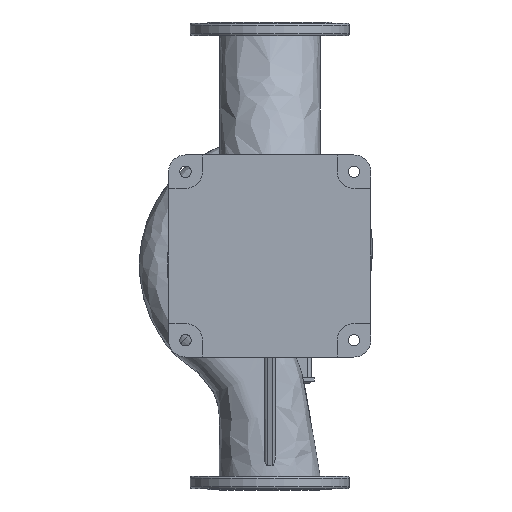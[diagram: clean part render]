
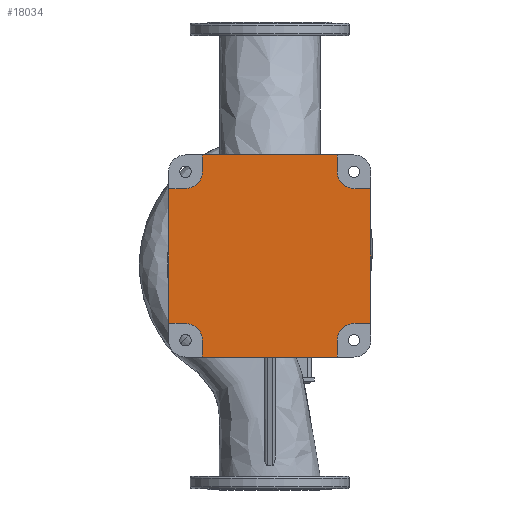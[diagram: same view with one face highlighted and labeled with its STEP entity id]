
A CAD part, front view. The second image highlights one B-rep face of the part: STEP entity #18034.
In plain terms, the highlighted planar face has unit normal (0, -1, 0).
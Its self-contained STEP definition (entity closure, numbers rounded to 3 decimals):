
#127 = DIRECTION ( 'NONE',  ( 0., 1., 0. ) ) ;
#248 = FACE_OUTER_BOUND ( 'NONE', #14874, .T. ) ;
#1414 = VERTEX_POINT ( 'NONE', #22274 ) ;
#1942 = CARTESIAN_POINT ( 'NONE',  ( -144., -265., 216. ) ) ;
#2064 = VERTEX_POINT ( 'NONE', #24105 ) ;
#2148 = AXIS2_PLACEMENT_3D ( 'NONE', #8521, #23563, #18140 ) ;
#2205 = EDGE_CURVE ( 'NONE', #7625, #1414, #29175, .T. ) ;
#2304 = ORIENTED_EDGE ( 'NONE', *, *, #12427, .T. ) ;
#2947 = CARTESIAN_POINT ( 'NONE',  ( -216., -265., 144. ) ) ;
#3787 = CARTESIAN_POINT ( 'NONE',  ( -180., -265., 144. ) ) ;
#3791 = VERTEX_POINT ( 'NONE', #15436 ) ;
#3812 = CARTESIAN_POINT ( 'NONE',  ( -144., -265., 216. ) ) ;
#3883 = EDGE_CURVE ( 'NONE', #30501, #2064, #29634, .T. ) ;
#3979 = LINE ( 'NONE', #1942, #22720 ) ;
#4129 = CARTESIAN_POINT ( 'NONE',  ( -180., -265., 144. ) ) ;
#5193 = CARTESIAN_POINT ( 'NONE',  ( 180., -265., 144. ) ) ;
#5518 = EDGE_CURVE ( 'NONE', #3791, #20964, #33376, .T. ) ;
#5564 = LINE ( 'NONE', #31088, #16019 ) ;
#5869 = CARTESIAN_POINT ( 'NONE',  ( 180., -265., 180. ) ) ;
#6014 = CARTESIAN_POINT ( 'NONE',  ( 144., -265., -180. ) ) ;
#6467 = VECTOR ( 'NONE', #16300, 1000. ) ;
#6799 = AXIS2_PLACEMENT_3D ( 'NONE', #5869, #16151, #26496 ) ;
#7068 = CARTESIAN_POINT ( 'NONE',  ( 144., -265., 216. ) ) ;
#7625 = VERTEX_POINT ( 'NONE', #22442 ) ;
#7678 = CARTESIAN_POINT ( 'NONE',  ( 180., -265., -180. ) ) ;
#7699 = ORIENTED_EDGE ( 'NONE', *, *, #22164, .T. ) ;
#8148 = CARTESIAN_POINT ( 'NONE',  ( 180., -265., -144. ) ) ;
#8157 = ORIENTED_EDGE ( 'NONE', *, *, #27392, .T. ) ;
#8490 = ORIENTED_EDGE ( 'NONE', *, *, #21401, .T. ) ;
#8521 = CARTESIAN_POINT ( 'NONE',  ( -180., -265., -180. ) ) ;
#8583 = LINE ( 'NONE', #16797, #13534 ) ;
#8693 = VECTOR ( 'NONE', #30671, 1000. ) ;
#8933 = EDGE_CURVE ( 'NONE', #24830, #10289, #8583, .T. ) ;
#9381 = CARTESIAN_POINT ( 'NONE',  ( 216., -265., -144. ) ) ;
#9833 = AXIS2_PLACEMENT_3D ( 'NONE', #7678, #23064, #33379 ) ;
#9910 = ORIENTED_EDGE ( 'NONE', *, *, #26639, .T. ) ;
#9911 = LINE ( 'NONE', #22751, #12592 ) ;
#10100 = DIRECTION ( 'NONE',  ( 0., 0., 1. ) ) ;
#10289 = VERTEX_POINT ( 'NONE', #17712 ) ;
#10371 = CARTESIAN_POINT ( 'NONE',  ( 144., -265., -216. ) ) ;
#10408 = DIRECTION ( 'NONE',  ( 0., 0., -1. ) ) ;
#10618 = EDGE_CURVE ( 'NONE', #17235, #14020, #30034, .T. ) ;
#10622 = ORIENTED_EDGE ( 'NONE', *, *, #3883, .T. ) ;
#10746 = EDGE_CURVE ( 'NONE', #21104, #3791, #9911, .T. ) ;
#11378 = ORIENTED_EDGE ( 'NONE', *, *, #25687, .T. ) ;
#11433 = CARTESIAN_POINT ( 'NONE',  ( -180., -265., -144. ) ) ;
#11807 = ORIENTED_EDGE ( 'NONE', *, *, #8933, .T. ) ;
#11877 = VECTOR ( 'NONE', #16728, 1000. ) ;
#12017 = ORIENTED_EDGE ( 'NONE', *, *, #10746, .T. ) ;
#12198 = CARTESIAN_POINT ( 'NONE',  ( -216., -265., -144. ) ) ;
#12427 = EDGE_CURVE ( 'NONE', #14020, #21104, #3979, .T. ) ;
#12430 = ORIENTED_EDGE ( 'NONE', *, *, #10618, .T. ) ;
#12519 = EDGE_CURVE ( 'NONE', #10289, #7625, #20168, .T. ) ;
#12592 = VECTOR ( 'NONE', #10408, 1000. ) ;
#12786 = CARTESIAN_POINT ( 'NONE',  ( -180., -265., -180. ) ) ;
#12886 = VECTOR ( 'NONE', #26777, 1000. ) ;
#13050 = CIRCLE ( 'NONE', #9833, 36. ) ;
#13304 = VERTEX_POINT ( 'NONE', #8148 ) ;
#13534 = VECTOR ( 'NONE', #14254, 1000. ) ;
#14020 = VERTEX_POINT ( 'NONE', #7068 ) ;
#14254 = DIRECTION ( 'NONE',  ( 0., 0., -1. ) ) ;
#14355 = CARTESIAN_POINT ( 'NONE',  ( -216., -265., -144. ) ) ;
#14874 = EDGE_LOOP ( 'NONE', ( #8157, #11807, #15017, #20926, #9910, #7699, #10622, #8490, #28262, #12430, #2304, #12017, #29789, #33138, #15135, #11378 ) ) ;
#15017 = ORIENTED_EDGE ( 'NONE', *, *, #12519, .T. ) ;
#15135 = ORIENTED_EDGE ( 'NONE', *, *, #19069, .T. ) ;
#15436 = CARTESIAN_POINT ( 'NONE',  ( -144., -265., 180. ) ) ;
#16019 = VECTOR ( 'NONE', #28229, 1000. ) ;
#16072 = AXIS2_PLACEMENT_3D ( 'NONE', #28310, #18301, #23065 ) ;
#16151 = DIRECTION ( 'NONE',  ( 0., 1., 0. ) ) ;
#16276 = PLANE ( 'NONE',  #2148 ) ;
#16300 = DIRECTION ( 'NONE',  ( 0., 0., 1. ) ) ;
#16519 = CIRCLE ( 'NONE', #20821, 36. ) ;
#16728 = DIRECTION ( 'NONE',  ( 0., 0., -1. ) ) ;
#16797 = CARTESIAN_POINT ( 'NONE',  ( -144., -265., -180. ) ) ;
#17235 = VERTEX_POINT ( 'NONE', #25322 ) ;
#17712 = CARTESIAN_POINT ( 'NONE',  ( -144., -265., -216. ) ) ;
#18034 = ADVANCED_FACE ( 'NONE', ( #248 ), #16276, .F. ) ;
#18140 = DIRECTION ( 'NONE',  ( 0., 0., 1. ) ) ;
#18301 = DIRECTION ( 'NONE',  ( 0., 1., 0. ) ) ;
#18637 = EDGE_CURVE ( 'NONE', #20964, #23941, #27260, .T. ) ;
#18659 = VERTEX_POINT ( 'NONE', #12198 ) ;
#19069 = EDGE_CURVE ( 'NONE', #23941, #18659, #22295, .T. ) ;
#19536 = DIRECTION ( 'NONE',  ( 0., 0., 1. ) ) ;
#20131 = VECTOR ( 'NONE', #19536, 1000. ) ;
#20168 = LINE ( 'NONE', #10371, #8693 ) ;
#20821 = AXIS2_PLACEMENT_3D ( 'NONE', #12786, #127, #10100 ) ;
#20926 = ORIENTED_EDGE ( 'NONE', *, *, #2205, .T. ) ;
#20964 = VERTEX_POINT ( 'NONE', #4129 ) ;
#21104 = VERTEX_POINT ( 'NONE', #3812 ) ;
#21329 = LINE ( 'NONE', #31824, #25738 ) ;
#21367 = CIRCLE ( 'NONE', #6799, 36. ) ;
#21401 = EDGE_CURVE ( 'NONE', #2064, #22524, #21329, .T. ) ;
#21661 = CARTESIAN_POINT ( 'NONE',  ( -180., -265., -144. ) ) ;
#22164 = EDGE_CURVE ( 'NONE', #13304, #30501, #5564, .T. ) ;
#22274 = CARTESIAN_POINT ( 'NONE',  ( 144., -265., -180. ) ) ;
#22295 = LINE ( 'NONE', #14355, #11877 ) ;
#22442 = CARTESIAN_POINT ( 'NONE',  ( 144., -265., -216. ) ) ;
#22524 = VERTEX_POINT ( 'NONE', #5193 ) ;
#22720 = VECTOR ( 'NONE', #32048, 1000. ) ;
#22751 = CARTESIAN_POINT ( 'NONE',  ( -144., -265., 180. ) ) ;
#23064 = DIRECTION ( 'NONE',  ( 0., 1., 0. ) ) ;
#23065 = DIRECTION ( 'NONE',  ( 0., 0., 1. ) ) ;
#23203 = VECTOR ( 'NONE', #24399, 1000. ) ;
#23563 = DIRECTION ( 'NONE',  ( 0., 1., 0. ) ) ;
#23941 = VERTEX_POINT ( 'NONE', #2947 ) ;
#24105 = CARTESIAN_POINT ( 'NONE',  ( 216., -265., 144. ) ) ;
#24399 = DIRECTION ( 'NONE',  ( -1., 0., 0. ) ) ;
#24555 = CARTESIAN_POINT ( 'NONE',  ( 216., -265., 144. ) ) ;
#24830 = VERTEX_POINT ( 'NONE', #26712 ) ;
#25322 = CARTESIAN_POINT ( 'NONE',  ( 144., -265., 180. ) ) ;
#25687 = EDGE_CURVE ( 'NONE', #18659, #27570, #29123, .T. ) ;
#25738 = VECTOR ( 'NONE', #26763, 1000. ) ;
#26496 = DIRECTION ( 'NONE',  ( 0., 0., 1. ) ) ;
#26639 = EDGE_CURVE ( 'NONE', #1414, #13304, #13050, .T. ) ;
#26712 = CARTESIAN_POINT ( 'NONE',  ( -144., -265., -180. ) ) ;
#26763 = DIRECTION ( 'NONE',  ( -1., 0., 0. ) ) ;
#26777 = DIRECTION ( 'NONE',  ( 0., 0., 1. ) ) ;
#27260 = LINE ( 'NONE', #3787, #23203 ) ;
#27392 = EDGE_CURVE ( 'NONE', #27570, #24830, #16519, .T. ) ;
#27570 = VERTEX_POINT ( 'NONE', #11433 ) ;
#27606 = EDGE_CURVE ( 'NONE', #22524, #17235, #21367, .T. ) ;
#27739 = VECTOR ( 'NONE', #28954, 1000. ) ;
#28229 = DIRECTION ( 'NONE',  ( 1., 0., 0. ) ) ;
#28262 = ORIENTED_EDGE ( 'NONE', *, *, #27606, .T. ) ;
#28310 = CARTESIAN_POINT ( 'NONE',  ( -180., -265., 180. ) ) ;
#28954 = DIRECTION ( 'NONE',  ( 1., 0., 0. ) ) ;
#29123 = LINE ( 'NONE', #21661, #27739 ) ;
#29175 = LINE ( 'NONE', #6014, #6467 ) ;
#29634 = LINE ( 'NONE', #24555, #12886 ) ;
#29789 = ORIENTED_EDGE ( 'NONE', *, *, #5518, .T. ) ;
#29872 = CARTESIAN_POINT ( 'NONE',  ( 144., -265., 180. ) ) ;
#30034 = LINE ( 'NONE', #29872, #20131 ) ;
#30501 = VERTEX_POINT ( 'NONE', #9381 ) ;
#30671 = DIRECTION ( 'NONE',  ( 1., 0., 0. ) ) ;
#31088 = CARTESIAN_POINT ( 'NONE',  ( 180., -265., -144. ) ) ;
#31824 = CARTESIAN_POINT ( 'NONE',  ( 180., -265., 144. ) ) ;
#32048 = DIRECTION ( 'NONE',  ( -1., 0., 0. ) ) ;
#33138 = ORIENTED_EDGE ( 'NONE', *, *, #18637, .T. ) ;
#33376 = CIRCLE ( 'NONE', #16072, 36. ) ;
#33379 = DIRECTION ( 'NONE',  ( 0., 0., 1. ) ) ;
